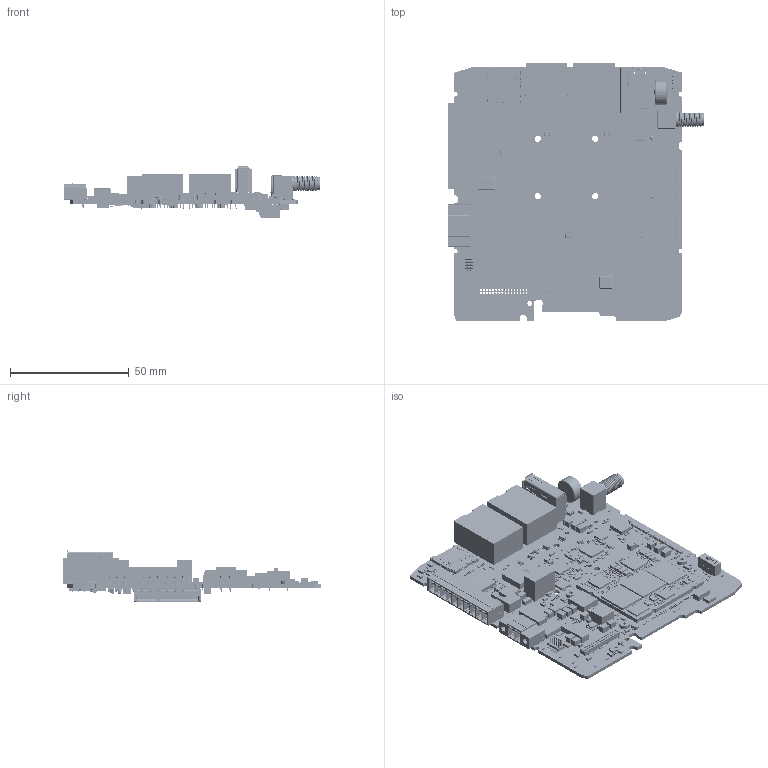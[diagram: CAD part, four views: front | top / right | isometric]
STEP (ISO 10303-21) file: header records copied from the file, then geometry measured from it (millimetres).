
FILE_DESCRIPTION(('STEP AP214'),'1');
FILE_NAME('PBA-CD-19_BoardAndModels.step','2022-10-05T09:29:55',(' '),(' '),'Spatial InterOp 3D','XD3DPlugin XRACreate',' ');
FILE_SCHEMA(('automotive_design'));
Length unit declared in the file: millimetre
Products named in the file (345): Submodel-N:\GROUP\DEVELOP\HARDWARE\PBA-CD-19_phyGATE-Tauri_L_iMX8MM\Design\1556.5\Schematic\001\PCB\Layout\3D\Input_S\MLF2012K390MT.xtd; MLF2012K390MT; Submodel-VARIST2_part_simplified_0805-C3; DesignRootModel; Submodel-N:\GROUP\DEVELOP\HARDWARE\PBA-CD-19_phyGATE-Tauri_L_iMX8MM\Design\1556.5\Schematic\001\PCB\Layout\3D\Input_S\LQM21NN3R3K10L.xtd; LQM21NN3R3K10L; Submodel-FILTER2_part_simplified_0805-C3; Submodel-N:\GROUP\DEVELOP\HARDWARE\PBA-CD-19_phyGATE-Tauri_L_iMX8MM\Design\1556.5\Schematic\001\PCB\Layout\3D\Input_S\C0402C270F5GAC_0.xtd; C0402C270F5GAC_0; Submodel-CAP3193_part_simplified_0402-C3; Submodel-N:\GROUP\DEVELOP\HARDWARE\PBA-CD-19_phyGATE-Tauri_L_iMX8MM\Design\1556.5\Schematic\001\PCB\Layout\3D\Input_S\REMOVE_CONN2292.xtd; REMOVE_CONN2292; Submodel-CONN2292_part_simplified_Testpunkt-1mm; Submodel-CAP2183_part_simplified_0402-C3; Submodel-N:\GROUP\DEVELOP\HARDWARE\PBA-CD-19_phyGATE-Tauri_L_iMX8MM\Design\1556.5\Schematic\001\PCB\Layout\3D\Input_S\RCC-0402-1000F.xtd; RCC-0402-1000F; Submodel-RES2002_part_simplified_0402-C3; Submodel-N:\GROUP\DEVELOP\HARDWARE\PBA-CD-19_phyGATE-Tauri_L_iMX8MM\Design\1556.5\Schematic\001\PCB\Layout\3D\Input_S\CLP-116-02-F-D-BE _lpar_1_rpar_.xtd; CLP-116-02-F-D-BE (1); Submodel-CONN11843_part_simplified_X2X16-1_comma_27-CLP-Samtec; Submodel-N:\GROUP\DEVELOP\HARDWARE\PBA-CD-19_phyGATE-Tauri_L_iMX8MM\Design\1556.5\Schematic\001\PCB\Layout\3D\Input_S\1210_SMD.xtd; 1210_SMD; Submodel-CAP1122_part_simplified_1210-C3; Submodel-RES1982_part_simplified_0402-C3; Submodel-N:\GROUP\DEVELOP\HARDWARE\PBA-CD-19_phyGATE-Tauri_L_iMX8MM\Design\1556.5\Schematic\001\PCB\Layout\3D\Input_S\JUMP32.xtd; JUMP32; Submodel-JUMP32_part_simplified_J1X3-0402-C3; Submodel-N:\GROUP\DEVELOP\HARDWARE\PBA-CD-19_phyGATE-Tauri_L_iMX8MM\Design\1556.5\Schematic\001\PCB\Layout\3D\Input_S\CC1210KRX7R8BB106.xtd; CC1210KRX7R8BB106; Submodel-CAP3252_part_simplified_1210-C3; Submodel-RES1532_part_simplified_0402-C3; Submodel-RES1022_part_simplified_0402-C3; Submodel-RES802_part_simplified_0402-C3; Submodel-N:\GROUP\DEVELOP\HARDWARE\PBA-CD-19_phyGATE-Tauri_L_iMX8MM\Design\1556.5\Schematic\001\PCB\Layout\3D\Input_S\60311042114502_Download_STP_60311042114502_rev1.xtd; 60311042114502_Download_STP_60311042114502_rev1; Submodel-CONN13923_part_simplified_Buchse-SMB-THT; Submodel-RES2092_part_simplified_0402-C3; Submodel-N:\GROUP\DEVELOP\HARDWARE\PBA-CD-19_phyGATE-Tauri_L_iMX8MM\Design\1556.5\Schematic\001\PCB\Layout\3D\Input_S\APA1606-GREEN.xtd; APA1606-GREEN; Submodel-LED523_part_simplified_LED-KPA-1606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
Assembly tree (811 placements, depth 5):
  PBA-CD-19_BoardAndModels
    DesignRootModel
      Submodel-VARIST2_part_simplified_0805-C3  x6
        Submodel-N:\GROUP\DEVELOP\HARDWARE\PBA-CD-19_phyGATE-Tauri_L_iMX8MM\Design\1556.5\Schematic\001\PCB\Layout\3D\Input_S\MLF2012K390MT.xtd
          MLF2012K390MT
      Submodel-FILTER2_part_simplified_0805-C3  x9
        Submodel-N:\GROUP\DEVELOP\HARDWARE\PBA-CD-19_phyGATE-Tauri_L_iMX8MM\Design\1556.5\Schematic\001\PCB\Layout\3D\Input_S\LQM21NN3R3K10L.xtd
          LQM21NN3R3K10L
      Submodel-CAP3193_part_simplified_0402-C3  x129
        Submodel-N:\GROUP\DEVELOP\HARDWARE\PBA-CD-19_phyGATE-Tauri_L_iMX8MM\Design\1556.5\Schematic\001\PCB\Layout\3D\Input_S\C0402C270F5GAC_0.xtd
          C0402C270F5GAC_0
      Submodel-CONN2292_part_simplified_Testpunkt-1mm  x38
        Submodel-N:\GROUP\DEVELOP\HARDWARE\PBA-CD-19_phyGATE-Tauri_L_iMX8MM\Design\1556.5\Schematic\001\PCB\Layout\3D\Input_S\REMOVE_CONN2292.xtd
          REMOVE_CONN2292
      Submodel-CAP2183_part_simplified_0402-C3  x4
        Submodel-N:\GROUP\DEVELOP\HARDWARE\PBA-CD-19_phyGATE-Tauri_L_iMX8MM\Design\1556.5\Schematic\001\PCB\Layout\3D\Input_S\C0402C270F5GAC_0.xtd
          C0402C270F5GAC_0
      Submodel-RES2002_part_simplified_0402-C3  x9
        Submodel-N:\GROUP\DEVELOP\HARDWARE\PBA-CD-19_phyGATE-Tauri_L_iMX8MM\Design\1556.5\Schematic\001\PCB\Layout\3D\Input_S\RCC-0402-1000F.xtd
          RCC-0402-1000F
      Submodel-CONN11843_part_simplified_X2X16-1_comma_27-CLP-Samtec
        Submodel-N:\GROUP\DEVELOP\HARDWARE\PBA-CD-19_phyGATE-Tauri_L_iMX8MM\Design\1556.5\Schematic\001\PCB\Layout\3D\Input_S\CLP-116-02-F-D-BE _lpar_1_rpar_.xtd
          CLP-116-02-F-D-BE (1)
      Submodel-CAP1122_part_simplified_1210-C3  x13
        Submodel-N:\GROUP\DEVELOP\HARDWARE\PBA-CD-19_phyGATE-Tauri_L_iMX8MM\Design\1556.5\Schematic\001\PCB\Layout\3D\Input_S\1210_SMD.xtd
          1210_SMD
      Submodel-RES1982_part_simplified_0402-C3  x72
        Submodel-N:\GROUP\DEVELOP\HARDWARE\PBA-CD-19_phyGATE-Tauri_L_iMX8MM\Design\1556.5\Schematic\001\PCB\Layout\3D\Input_S\RCC-0402-1000F.xtd
          RCC-0402-1000F
      Submodel-JUMP32_part_simplified_J1X3-0402-C3  x11
        Submodel-N:\GROUP\DEVELOP\HARDWARE\PBA-CD-19_phyGATE-Tauri_L_iMX8MM\Design\1556.5\Schematic\001\PCB\Layout\3D\Input_S\JUMP32.xtd
          JUMP32
      Submodel-CAP3252_part_simplified_1210-C3  x7
        Submodel-N:\GROUP\DEVELOP\HARDWARE\PBA-CD-19_phyGATE-Tauri_L_iMX8MM\Design\1556.5\Schematic\001\PCB\Layout\3D\Input_S\CC1210KRX7R8BB106.xtd
          CC1210KRX7R8BB106
      Submodel-RES1532_part_simplified_0402-C3  x18
        Submodel-N:\GROUP\DEVELOP\HARDWARE\PBA-CD-19_phyGATE-Tauri_L_iMX8MM\Design\1556.5\Schematic\001\PCB\Layout\3D\Input_S\RCC-0402-1000F.xtd
          RCC-0402-1000F
      Submodel-RES1022_part_simplified_0402-C3  x7
        Submodel-N:\GROUP\DEVELOP\HARDWARE\PBA-CD-19_phyGATE-Tauri_L_iMX8MM\Design\1556.5\Schematic\001\PCB\Layout\3D\Input_S\RCC-0402-1000F.xtd
          RCC-0402-1000F
      Submodel-RES802_part_simplified_0402-C3  x9
        Submodel-N:\GROUP\DEVELOP\HARDWARE\PBA-CD-19_phyGATE-Tauri_L_iMX8MM\Design\1556.5\Schematic\001\PCB\Layout\3D\Input_S\RCC-0402-1000F.xtd
          RCC-0402-1000F
      Submodel-CONN13923_part_simplified_Buchse-SMB-THT
        Submodel-N:\GROUP\DEVELOP\HARDWARE\PBA-CD-19_phyGATE-Tauri_L_iMX8MM\Design\1556.5\Schematic\001\PCB\Layout\3D\Input_S\60311042114502_Download_STP_60311042114502_rev1.xtd
          60311042114502_Download_STP_60311042114502_rev1
      Submodel-RES2092_part_simplified_0402-C3
        Submodel-N:\GROUP\DEVELOP\HARDWARE\PBA-CD-19_phyGATE-Tauri_L_iMX8MM\Design\1556.5\Schematic\001\PCB\Layout\3D\Input_S\RCC-0402-1000F.xtd
          RCC-0402-1000F
      Submodel-LED523_part_simplified_LED-KPA-1606
        Submodel-N:\GROUP\DEVELOP\HARDWARE\PBA-CD-19_phyGATE-Tauri_L_iMX8MM\Design\1556.5\Schematic\001\PCB\Layout\3D\Input_S\APA1606-GREEN.xtd
          APA1606-GREEN
      Submodel-RES862_part_simplified_0402-C3  x4
        Submodel-N:\GROUP\DEVELOP\HARDWARE\PBA-CD-19_phyGATE-Tauri_L_iMX8MM\Design\1556.5\Schematic\001\PCB\Layout\3D\Input_S\RCC-0402-1000F.xtd
          RCC-0402-1000F
      Submodel-CAP1092_part_simplified_0402-C3  x9
        Submodel-N:\GROUP\DEVELOP\HARDWARE\PBA-CD-19_phyGATE-Tauri_L_iMX8MM\Design\1556.5\Schematic\001\PCB\Layout\3D\Input_S\C0402C270F5GAC_0.xtd
          C0402C270F5GAC_0
      Submodel-LED653_part_simplified_LED-KPA-1606
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Bounding box: 107.88 x 109.15 x 21.86 mm (x, y, z)
Volume: 33364.5 mm3; surface area: 61650 mm2
Topology: 1526 solids, 3509 shells, 21278 faces, 58453 edges, 41971 vertices
Faces by surface type: plane 15820, cylinder 2604, sphere 1788, bspline 724, torus 292, cone 50
Full cylindrical faces by diameter (mm): 0.8 x32, 0.9 x2, 1.1 x1, 1.27 x4, 1.567 x3, 1.6 x1, 2.1 x1, 2.4 x2, 2.6 x4, 2.8 x3, 3 x1, 3.4 x4, 3.5 x1, 4.06 x1, 4.158 x1, 4.35 x3, 4.95 x1, 5.35 x1, 5.6 x1, 6.33 x1, 6.5 x1
Entity records: 720409 total; most frequent: CARTESIAN_POINT 124864, DIRECTION 85644, ORIENTED_EDGE 79362, EDGE_CURVE 43393, LINE 33136, VECTOR 33136, VERTEX_POINT 31272, AXIS2_PLACEMENT_3D 26254
